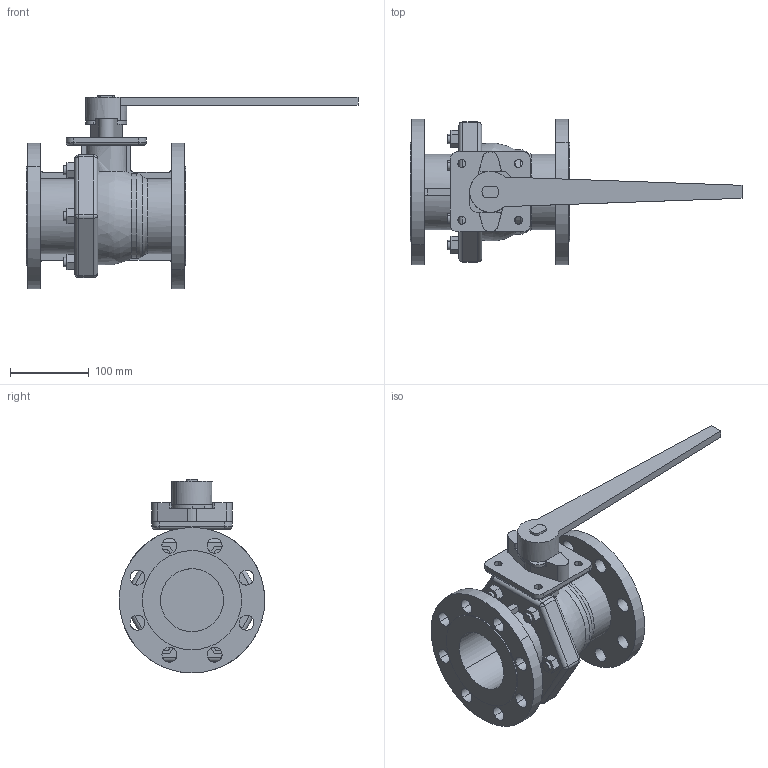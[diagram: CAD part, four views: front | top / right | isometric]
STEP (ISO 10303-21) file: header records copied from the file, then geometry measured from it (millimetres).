
FILE_DESCRIPTION((''),'2;1');
FILE_NAME('','2022-03-23T15:34:39',(''),(''),'','CADfix','');
FILE_SCHEMA(('AUTOMOTIVE_DESIGN { 1 0 10303 214 1 1 1 1 }'));
Length unit declared in the file: millimetre
Products named in the file (2): BLV-2SFJ 80A; BLV-2SF JIS 10K 80A_38
Assembly tree (1 placements, depth 2):
  BLV-2SF JIS 10K 80A_38
    BLV-2SFJ 80A
Bounding box: 422 x 185 x 246.5 mm (x, y, z)
Volume: 2029677.2 mm3; surface area: 308481 mm2
Topology: 1 solids, 1 shells, 258 faces, 927 edges, 688 vertices
Faces by surface type: bspline 258
Entity records: 13151 total; most frequent: CARTESIAN_POINT 7078, ORIENTED_EDGE 1854, EDGE_CURVE 927, STYLED_ITEM 717, VERTEX_POINT 688, B_SPLINE_CURVE_WITH_KNOTS 429, QUASI_UNIFORM_CURVE 387, EDGE_LOOP 319
